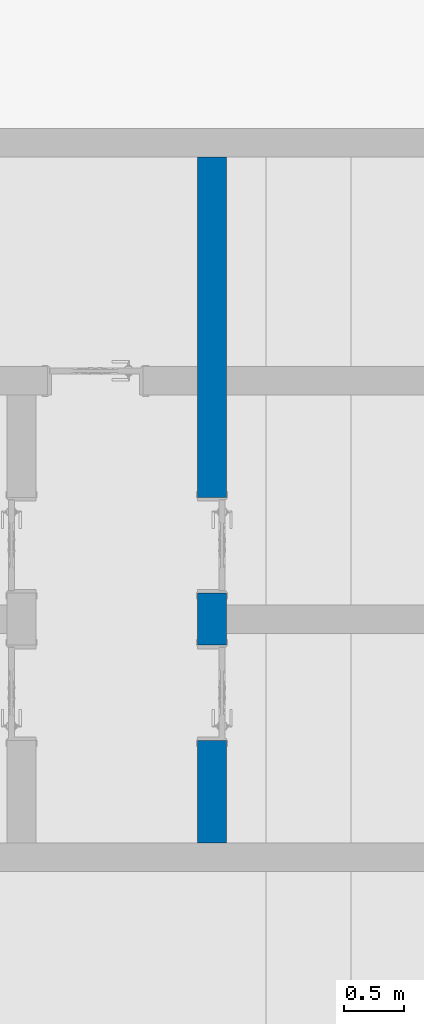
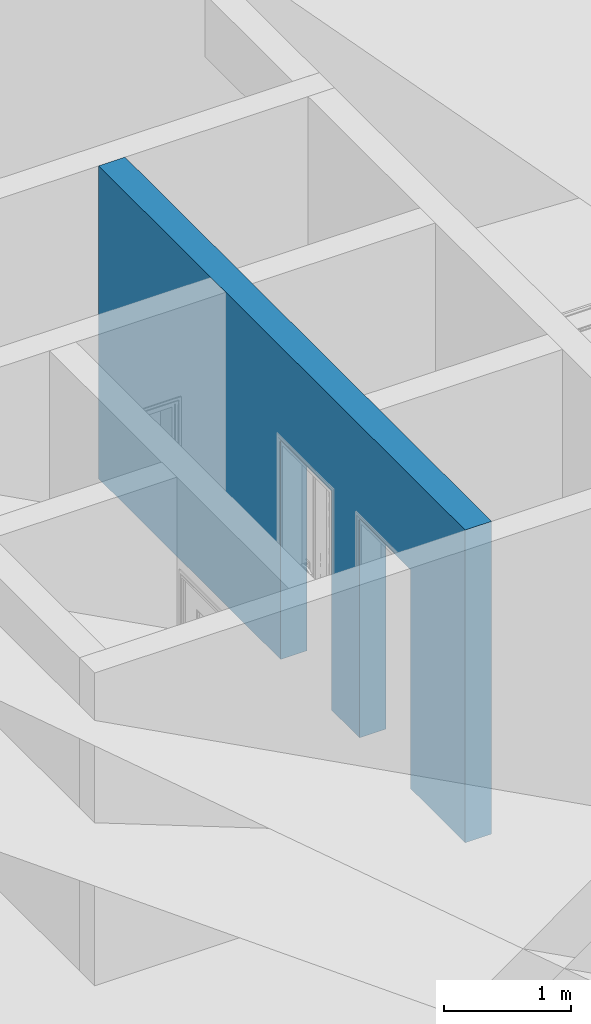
# One storey, part 65 of 82: 1 wall, 2 openings.
"""IFC2X3 building model written with IfcOpenShell, lengths in millimetres."""

from ifc_helpers import new_model, entity, si_unit, converted_unit, derived_unit, direction, frame, frame_2d, origin, place, context, subcontext, project, spatial, rectangle, extrude, material, layer, layer_set, layer_usage, type_object, element, save


model = new_model("IFC2X3")

# Units and contexts
model_context = context("Model", 3, precision=0.01, world=origin(), true_north=direction((6.12303176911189e-17, 1.0)))
body_context = subcontext(model_context, "Body", "Model", "MODEL_VIEW")
ifc_project = project(units=[si_unit("LENGTHUNIT", "METRE", prefix="MILLI"), si_unit("AREAUNIT", "SQUARE_METRE"), si_unit("VOLUMEUNIT", "CUBIC_METRE"), converted_unit("PLANEANGLEUNIT", "DEGREE", entity("IfcRatioMeasure", 0.0174532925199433), si_unit("PLANEANGLEUNIT", "RADIAN"), dimensions=[0, 0, 0, 0, 0, 0, 0]), si_unit("MASSUNIT", "GRAM", prefix="KILO"), derived_unit("MASSDENSITYUNIT", [(si_unit("MASSUNIT", "GRAM", prefix="KILO"), 1), (si_unit("LENGTHUNIT", "METRE"), -3)]), si_unit("TIMEUNIT", "SECOND"), si_unit("FREQUENCYUNIT", "HERTZ"), si_unit("THERMODYNAMICTEMPERATUREUNIT", "DEGREE_CELSIUS"), derived_unit("THERMALTRANSMITTANCEUNIT", [(si_unit("MASSUNIT", "GRAM", prefix="KILO"), 1), (si_unit("THERMODYNAMICTEMPERATUREUNIT", "KELVIN"), -1), (si_unit("TIMEUNIT", "SECOND"), -3)]), derived_unit("VOLUMETRICFLOWRATEUNIT", [(si_unit("LENGTHUNIT", "METRE"), 3), (si_unit("TIMEUNIT", "SECOND"), -1)]), si_unit("ELECTRICCURRENTUNIT", "AMPERE"), si_unit("ELECTRICVOLTAGEUNIT", "VOLT"), si_unit("POWERUNIT", "WATT"), si_unit("FORCEUNIT", "NEWTON", prefix="KILO"), si_unit("ILLUMINANCEUNIT", "LUX"), si_unit("LUMINOUSFLUXUNIT", "LUMEN"), si_unit("LUMINOUSINTENSITYUNIT", "CANDELA"), derived_unit("USERDEFINED", [(si_unit("MASSUNIT", "GRAM", prefix="KILO"), -1), (si_unit("LENGTHUNIT", "METRE"), -2), (si_unit("TIMEUNIT", "SECOND"), 3), (si_unit("LUMINOUSFLUXUNIT", "LUMEN"), 1)]), derived_unit("LINEARVELOCITYUNIT", [(si_unit("LENGTHUNIT", "METRE"), 1), (si_unit("TIMEUNIT", "SECOND"), -1)]), si_unit("PRESSUREUNIT", "PASCAL"), derived_unit("USERDEFINED", [(si_unit("LENGTHUNIT", "METRE"), -2), (si_unit("MASSUNIT", "GRAM", prefix="KILO"), 1), (si_unit("TIMEUNIT", "SECOND"), -2)])], contexts=[model_context])

# Site, building, storey
site_placement = place(None, origin())
site = spatial("IfcSite", under=ifc_project, at=site_placement, Name="表面", CompositionType="ELEMENT")
building_placement = place(site_placement, origin())
building = spatial("IfcBuilding", under=site, at=building_placement, CompositionType="ELEMENT")
storey_placement = place(building_placement, origin())
storey = spatial("IfcBuildingStorey", under=building, at=storey_placement, Name="1F", CompositionType="ELEMENT", Elevation=0.0)

# Wall, openings
ifc_material_1 = material(Name="白色涂料")
ifc_layer_1 = layer(ifc_material_1, 10.0)
ifc_material_2 = material(Name="默认墙")
ifc_layer_2 = layer(ifc_material_2, 220.0)
ifc_layer_3 = layer(ifc_material_1, 10.0)
ifc_layer_set = layer_set([ifc_layer_1, ifc_layer_2, ifc_layer_3], Name="基本墙:粉刷墙240")
ifc_layer_usage = layer_usage(ifc_layer_set, "AXIS2", "NEGATIVE", 120.0)
wall_type = type_object("IfcWallType", Name="基本墙:粉刷墙240", PredefinedType="STANDARD", material=ifc_layer_set)
wall_placement = place(storey_placement, frame((-8530.24991264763, -2196.86842665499, 0.0), z_axis=(0.0, 0.0, 1.0), x_axis=(0.0, 1.0, 0.0)))
wall = element("IfcWallStandardCase", 1, at=wall_placement, inside=storey, type_object=wall_type, material=ifc_layer_usage, Name="基本墙:粉刷墙240", ObjectType="基本墙:粉刷墙240", context=body_context, shape_type="SweptSolid", body=[
    extrude(rectangle(XDim=5759.99999999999, YDim=240.0, at=frame_2d((2880.0, -4.54747350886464e-13), x_axis=(-1.0, 0.0))), origin(), (0.0, 0.0, 1.0), 3000.00000000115),
])
opening_1_placement = place(wall_placement, frame((2900.0, 120.0, 0.0)))
element("IfcOpeningElement", 2, at=opening_1_placement, cuts=wall, Name="装饰木门:M0821:1", ObjectType="Opening", context=body_context, shape_type="SweptSolid", body=[
    extrude(rectangle(XDim=2099.99999999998, YDim=800.0, at=frame_2d((1049.99999999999, 400.0), x_axis=(1.0, 0.0))), frame((0.0, 0.0, 0.0), z_axis=(0.0, -1.0, 0.0), x_axis=(0.0, 0.0, 1.0)), (0.0, 0.0, 1.0), 240.0),
])
opening_2_placement = place(wall_placement, frame((1660.0, 120.0, 0.0)))
element("IfcOpeningElement", 3, at=opening_2_placement, cuts=wall, Name="装饰木门:M0821:1", ObjectType="Opening", context=body_context, shape_type="SweptSolid", body=[
    extrude(rectangle(XDim=2099.99999999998, YDim=800.0, at=frame_2d((1049.99999999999, 400.0), x_axis=(1.0, 0.0))), frame((0.0, 0.0, 0.0), z_axis=(0.0, -1.0, 0.0), x_axis=(0.0, 0.0, 1.0)), (0.0, 0.0, 1.0), 240.0),
])

save(model, "model.ifc")
